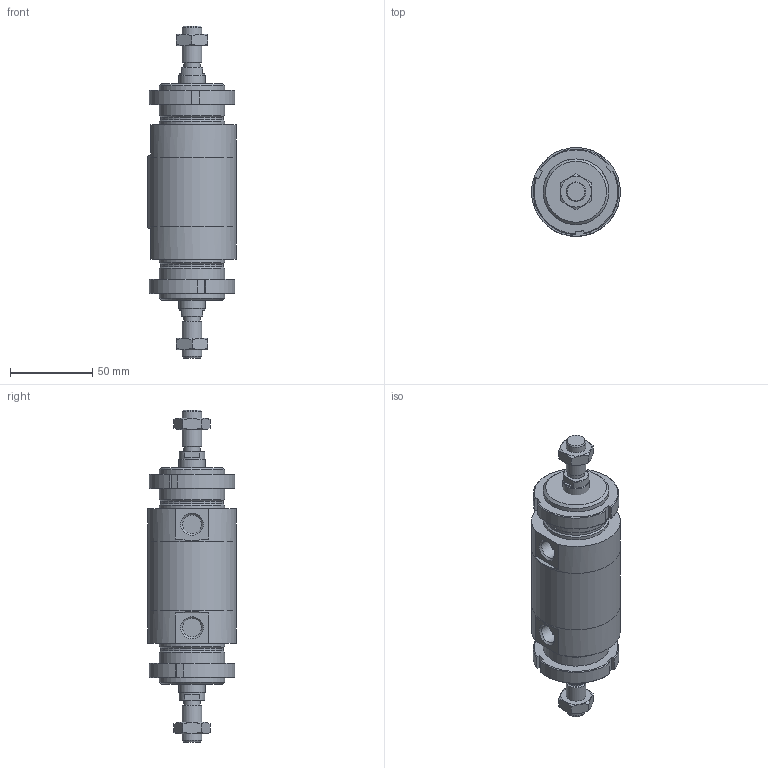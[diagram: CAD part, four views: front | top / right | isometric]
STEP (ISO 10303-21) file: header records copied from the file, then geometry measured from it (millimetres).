
FILE_DESCRIPTION(/* description */ (''),/* implementation_level */ '2;1');
FILE_NAME(/* name */ 'I:\Area Tecnica\Documenti\A-Manieri\_Inventor\12X\12X#S_###_####_#_#\12XCS_050_0000_#_#.stp',/* time_stamp */ '2015-05-08T14:18:20+02:00',/* author */ ('maniean1'),/* organization */ ('Pneumax S.p.A.'),/* preprocessor_version */ 'ST-DEVELOPER v15.2',/* originating_system */ 'Autodesk Inventor 2014',/* authorisation */ '');
FILE_SCHEMA (('AUTOMOTIVE_DESIGN { 1 0 10303 214 3 1 1 }'));
Length unit declared in the file: millimetre
Products named in the file (6): C1250_619-0000; 12X50_604; SP12X50_0000; 12X_50_11; G12X_050_05; 12XCS_050_0000_#_#
Bounding box: 54 x 54 x 202 mm (x, y, z)
Volume: 278341.2 mm3; surface area: 69042.6 mm2
Topology: 8 solids, 8 shells, 133 faces, 303 edges, 194 vertices
Faces by surface type: plane 66, cone 34, cylinder 33
Full cylindrical faces by diameter (mm): 10.2 x2, 11.4 x2, 12 x4, 14 x2, 15.6 x2, 16 x2, 38.2 x2, 40 x6, 50 x2, 54 x3
Entity records: 2300 total; most frequent: CARTESIAN_POINT 435, DIRECTION 388, ORIENTED_EDGE 310, AXIS2_PLACEMENT_3D 166, EDGE_CURVE 155, EDGE_LOOP 130, VERTEX_POINT 117, ADVANCED_FACE 85
